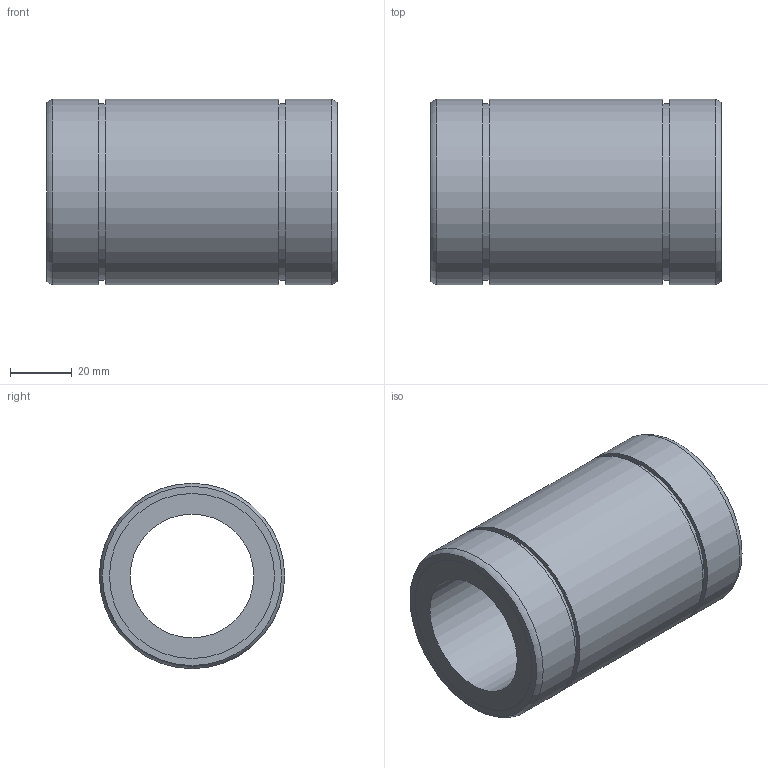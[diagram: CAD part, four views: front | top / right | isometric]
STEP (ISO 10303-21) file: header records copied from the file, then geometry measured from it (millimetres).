
FILE_DESCRIPTION((''),'2;1');
FILE_NAME('C:\Documents and Settings\土屋\My Documents\土屋移動用フォルダ\製品 (図面)\カタログ用3D\変換ファイル\OZAK_3D-CAD(STEP形式)\Part1.-Linear Bearings_ﾘﾆｱﾍﾞｱﾘﾝｸﾞ\09_Maintenance Free_ﾒｲﾝﾃﾅﾝｽﾌﾘｰ\L2017-09-21T11:45:02','2017-09-21T11:45:02',('y'),(''),'Autodesk Inventor 11','Autodesk Inventor 11','');
FILE_SCHEMA(('AUTOMOTIVE_DESIGN { 1 0 10303 214 1 1 1 1 }'));
Length unit declared in the file: millimetre
Products named in the file (1): L-MF
Bounding box: 94 x 60 x 60 mm (x, y, z)
Volume: 145996.8 mm3; surface area: 33456.4 mm2
Topology: 1 solids, 1 shells, 18 faces, 28 edges, 18 vertices
Faces by surface type: cylinder 8, plane 8, torus 2
Full cylindrical faces by diameter (mm): 40 x1, 53.4 x2, 57 x2, 60 x3
Entity records: 391 total; most frequent: DIRECTION 74, CARTESIAN_POINT 55, AXIS2_PLACEMENT_3D 37, ORIENTED_EDGE 36, EDGE_LOOP 36, VERTEX_POINT 18, CIRCLE 18, EDGE_CURVE 18
